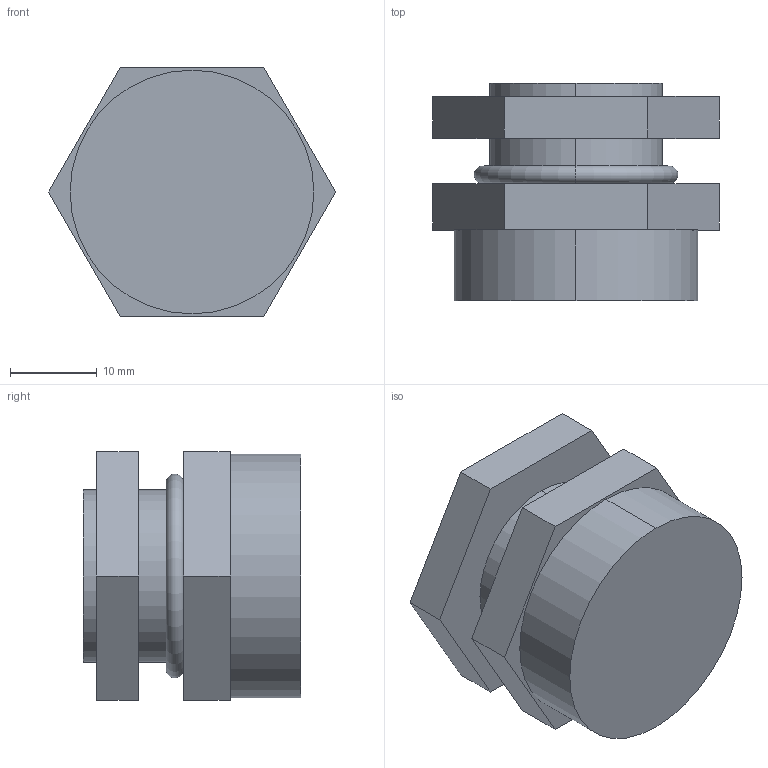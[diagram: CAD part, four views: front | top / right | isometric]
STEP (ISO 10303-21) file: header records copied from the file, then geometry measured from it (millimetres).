
FILE_DESCRIPTION (( 'STEP AP203' ), '1' );
FILE_NAME ('exebdm20ss6.STEP', '2013-11-26T14:35:52', ( 'User' ), ( 'Pentair Inc' ), 'SwSTEP 2.0', 'SolidWorks 2010', '' );
FILE_SCHEMA (( 'CONFIG_CONTROL_DESIGN' ));
Length unit declared in the file: inch
Products named in the file (1): exebdm20ss6
Bounding box: 33 x 25.02 x 28.57 mm (x, y, z)
Volume: 12811.6 mm3; surface area: 4985.3 mm2
Topology: 1 solids, 1 shells, 29 faces, 64 edges, 42 vertices
Faces by surface type: plane 19, cylinder 8, torus 2
Entity records: 881 total; most frequent: DIRECTION 144, CARTESIAN_POINT 136, ORIENTED_EDGE 128, EDGE_CURVE 64, AXIS2_PLACEMENT_3D 50, VECTOR 44, LINE 44, VERTEX_POINT 42
